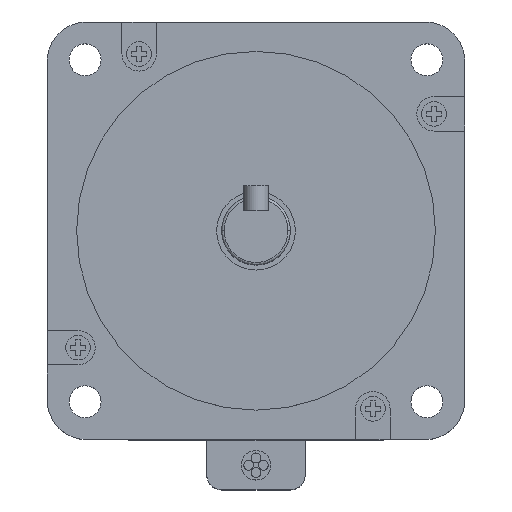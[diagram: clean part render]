
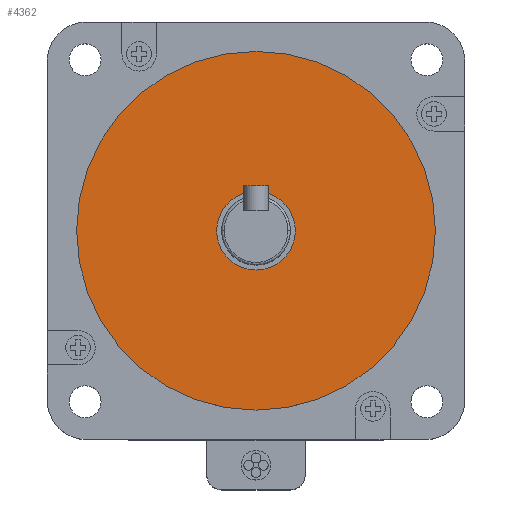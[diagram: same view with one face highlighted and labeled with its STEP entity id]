
A CAD part, top view. The second image highlights one B-rep face of the part: STEP entity #4362.
In plain terms, the highlighted planar face has unit normal (0, 0, 1).
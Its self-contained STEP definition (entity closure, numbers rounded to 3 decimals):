
#84 = ORIENTED_EDGE ( 'NONE', *, *, #5007, .T. ) ;
#486 = AXIS2_PLACEMENT_3D ( 'NONE', #3229, #974, #2098 ) ;
#586 = ORIENTED_EDGE ( 'NONE', *, *, #3496, .F. ) ;
#675 = EDGE_LOOP ( 'NONE', ( #4596, #84 ) ) ;
#688 = CIRCLE ( 'NONE', #5623, 36.513 ) ;
#707 = CARTESIAN_POINT ( 'NONE',  ( 0., 0., 2. ) ) ;
#913 = AXIS2_PLACEMENT_3D ( 'NONE', #6776, #1810, #2846 ) ;
#964 = CARTESIAN_POINT ( 'NONE',  ( 0., 0., 2. ) ) ;
#974 = DIRECTION ( 'NONE',  ( 0., 0., -1. ) ) ;
#1258 = DIRECTION ( 'NONE',  ( -1., 0., 0. ) ) ;
#1516 = EDGE_CURVE ( 'NONE', #2297, #5249, #3725, .T. ) ;
#1810 = DIRECTION ( 'NONE',  ( 0., 0., -1. ) ) ;
#1905 = CARTESIAN_POINT ( 'NONE',  ( -36.513, 0., 2. ) ) ;
#2098 = DIRECTION ( 'NONE',  ( -1., 0., 0. ) ) ;
#2144 = CARTESIAN_POINT ( 'NONE',  ( 0., 0., 2. ) ) ;
#2297 = VERTEX_POINT ( 'NONE', #3822 ) ;
#2374 = AXIS2_PLACEMENT_3D ( 'NONE', #2144, #6529, #4338 ) ;
#2735 = CARTESIAN_POINT ( 'NONE',  ( 36.513, 0., 2. ) ) ;
#2817 = FACE_BOUND ( 'NONE', #675, .T. ) ;
#2835 = CARTESIAN_POINT ( 'NONE',  ( 8., 0., 2. ) ) ;
#2846 = DIRECTION ( 'NONE',  ( -1., 0., 0. ) ) ;
#3148 = DIRECTION ( 'NONE',  ( 1., 0., 0. ) ) ;
#3229 = CARTESIAN_POINT ( 'NONE',  ( 0., 0., 2. ) ) ;
#3496 = EDGE_CURVE ( 'NONE', #7015, #4078, #688, .T. ) ;
#3720 = PLANE ( 'NONE',  #5041 ) ;
#3725 = CIRCLE ( 'NONE', #913, 8. ) ;
#3766 = CIRCLE ( 'NONE', #2374, 36.513 ) ;
#3822 = CARTESIAN_POINT ( 'NONE',  ( -8., 0., 2. ) ) ;
#3928 = ORIENTED_EDGE ( 'NONE', *, *, #6689, .F. ) ;
#4078 = VERTEX_POINT ( 'NONE', #2735 ) ;
#4228 = CIRCLE ( 'NONE', #486, 8. ) ;
#4338 = DIRECTION ( 'NONE',  ( -1., 0., 0. ) ) ;
#4362 = ADVANCED_FACE ( 'NONE', ( #2817, #5570 ), #3720, .T. ) ;
#4544 = DIRECTION ( 'NONE',  ( 0., 0., -1. ) ) ;
#4596 = ORIENTED_EDGE ( 'NONE', *, *, #1516, .T. ) ;
#5007 = EDGE_CURVE ( 'NONE', #5249, #2297, #4228, .T. ) ;
#5041 = AXIS2_PLACEMENT_3D ( 'NONE', #964, #6973, #3148 ) ;
#5249 = VERTEX_POINT ( 'NONE', #2835 ) ;
#5566 = EDGE_LOOP ( 'NONE', ( #586, #3928 ) ) ;
#5570 = FACE_OUTER_BOUND ( 'NONE', #5566, .T. ) ;
#5623 = AXIS2_PLACEMENT_3D ( 'NONE', #707, #4544, #1258 ) ;
#6529 = DIRECTION ( 'NONE',  ( 0., 0., -1. ) ) ;
#6689 = EDGE_CURVE ( 'NONE', #4078, #7015, #3766, .T. ) ;
#6776 = CARTESIAN_POINT ( 'NONE',  ( 0., 0., 2. ) ) ;
#6973 = DIRECTION ( 'NONE',  ( 0., 0., 1. ) ) ;
#7015 = VERTEX_POINT ( 'NONE', #1905 ) ;
